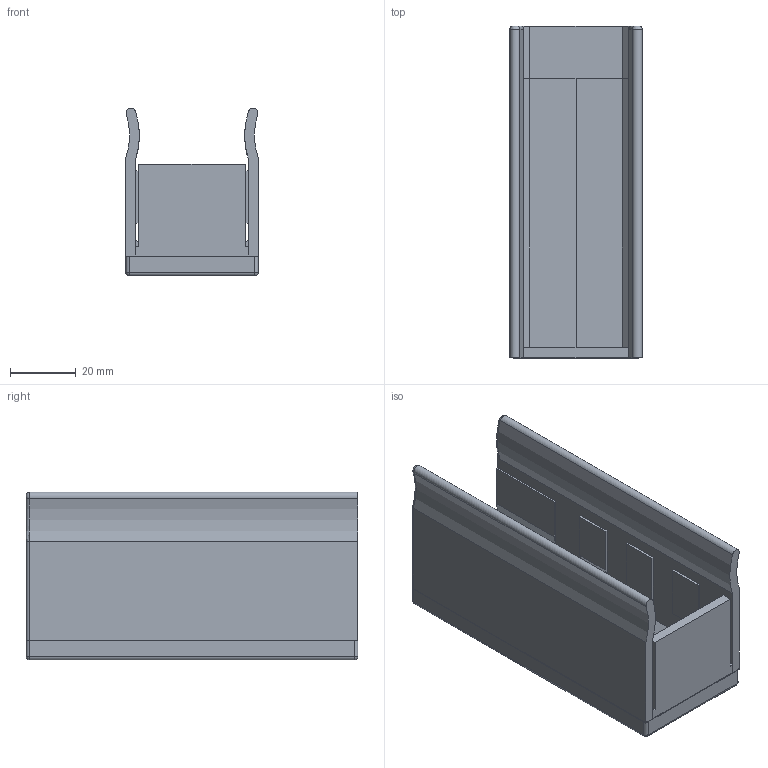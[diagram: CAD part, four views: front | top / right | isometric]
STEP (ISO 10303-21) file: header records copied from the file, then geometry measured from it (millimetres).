
FILE_DESCRIPTION(('FreeCAD Model'),'2;1');
FILE_NAME('Open CASCADE Shape Model','2025-11-17T09:47:35',(''),(''), 'Open CASCADE STEP processor 7.6','FreeCAD','Unknown');
FILE_SCHEMA(('AUTOMOTIVE_DESIGN { 1 0 10303 214 1 1 1 1 }'));
Length unit declared in the file: millimetre
Products named in the file (3): car_tool_holder_3; car safety tool - holder; car safety tool - base
Assembly tree (2 placements, depth 2):
  car_tool_holder_3
    car safety tool - holder
    car safety tool - base
Bounding box: 40.3 x 101 x 51.01 mm (x, y, z)
Volume: 58487.6 mm3; surface area: 38414.5 mm2
Topology: 2 solids, 2 shells, 100 faces, 252 edges, 158 vertices
Faces by surface type: plane 74, cylinder 16, torus 4, sphere 4, revolution 2
Entity records: 3122 total; most frequent: CARTESIAN_POINT 657, ORIENTED_EDGE 496, DIRECTION 488, EDGE_CURVE 248, LINE 204, VECTOR 204, VERTEX_POINT 158, AXIS2_PLACEMENT_3D 141
